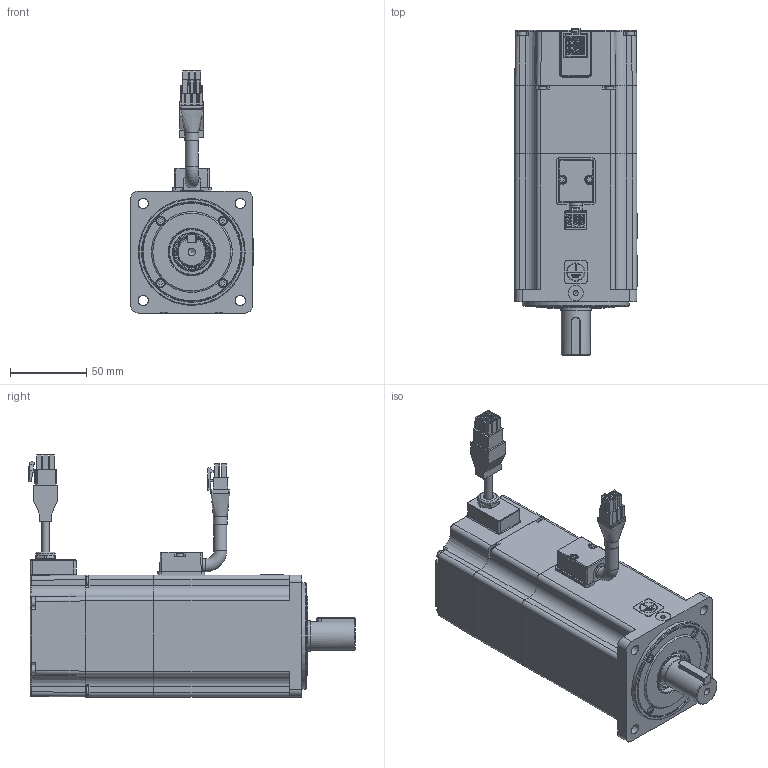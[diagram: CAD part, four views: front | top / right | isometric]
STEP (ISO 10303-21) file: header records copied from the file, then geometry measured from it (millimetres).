
FILE_DESCRIPTION( ( 'Unknown' ), '1' );
FILE_NAME( 'X:/05_Progetto TCE/010-TCE motor drawings/TCE80/vuoti/TCE80 3B XX 3 A2 1 D0.stp', 'Unknown', ( 'Unknown' ), ( 'Unknown' ), 'PSStep 17.0.49', 'Unknown', ' ' );
FILE_SCHEMA( ( 'AUTOMOTIVE_DESIGN { 1 0 10303 214 1 1 1 1 }' ) );
Length unit declared in the file: millimetre
Products named in the file (55): 003108015152_curva; 003303000376; 005453000452_D8,5; 003108020178_dritto; 005603001018; 003303000021; 005711000200; 005711000200-oa0; U5120004_vuoto; 001799000503; 005911000598; 003120002505; Assem1; 005204000002; 005123000690; 003155000302; 005911000004; 001107000619; 003251022002; 003103001504; 005119001502; 005204000001; 005204000003; 005008000740-oa1; 005008000690-oa2; 005008000690-oa3; 005123000800; 005911000493; 005113000492; 005911000182; 005008000908-oa4; 005911003621; 003003050011
Assembly tree (67 placements, depth 4):
  Assem1
    005204000002
    005123000690
    005123000690
    005123000690
    005123000690
    005123000690
    005123000690
    005123000690
    005123000690
    003155000302
    005911000004  x4
    001107000619
    003251022002
    003103001504
    005119001502
    005119001502
    005204000001
    005204000003
    005008000740-oa1
    005008000690-oa2
    005008000690-oa3
    005123000800
    005123000800
    005123000800
    005123000800
    005123000800
    005123000800
    005123000800
    005123000800
    005123000800
    005911000493  x4
    005113000492
    005911000182  x4
    005008000908-oa4
    005911003621  x4
    003003050011
    003108020178_dritto
      005603001018
      003303000021
      005711000200
      005711000200-oa0
      003108020178_dritto
      003108020178_dritto
    U5120004_vuoto
      001799000503
      005911000598  x2
      003120002505
      003120002505
      003108015152_curva
        003303000376
        005453000452_D8,5
        003108015152_curva
        003108015152_curva
        003108015152_curva
Bounding box: 80.3 x 213.9 x 158.7 mm (x, y, z)
Volume: 432370.9 mm3; surface area: 220453.7 mm2
Topology: 64 solids, 64 shells, 2293 faces, 5681 edges, 3638 vertices
Faces by surface type: plane 1366, cylinder 469, torus 127, cone 122, bspline 111, sphere 61, extrusion 37
Full cylindrical faces by diameter (mm): 2.013 x3, 2.459 x37, 2.5 x2, 2.6 x9, 2.7 x2, 3 x16, 3.242 x4, 3.5 x16, 4.7 x3, 4.917 x2, 5 x1, 5.2 x1, 5.3 x2, 5.5 x17, 7.2 x1, 8 x5, 8.1 x1, 8.5 x2, 8.51 x1, 9.11 x1, 10 x3, 10.3 x2, 10.647 x1, 11 x1, 12 x2, 12.7 x1, 14.98 x1, 15 x2, 17 x1, 19 x2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
Entity records: 86594 total; most frequent: CARTESIAN_POINT 21354, DIRECTION 9745, ORIENTED_EDGE 9568, EDGE_CURVE 4784, VERTEX_POINT 3292, AXIS2_PLACEMENT_3D 3275, VECTOR 3195, LINE 3158
